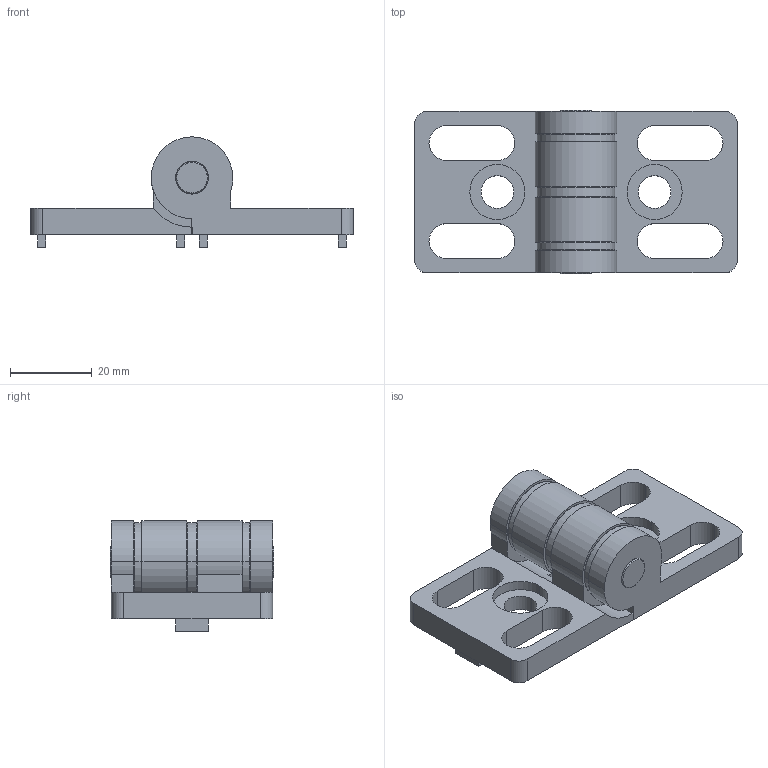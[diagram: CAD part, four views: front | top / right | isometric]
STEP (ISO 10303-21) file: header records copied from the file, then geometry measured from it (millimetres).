
FILE_DESCRIPTION (( 'STEP AP214' ), '1' );
FILE_NAME ('SNSD.30.52.85. Ïåòëÿ äâåðíàÿ ñòàëüíàÿ 4040(B40).STEP', '2015-06-30T07:53:23', ( 'user' ), ( '' ), 'SwSTEP 2.0', 'SolidWorks 2014', '' );
FILE_SCHEMA (( 'AUTOMOTIVE_DESIGN' ));
Length unit declared in the file: millimetre
Products named in the file (11): SNSD.30.50.96. ﾏ琿褻(B47)E07B48B54B40; SNSD.30.50.96. Ïåòëÿ äâåðíàÿ àëþìèíåâàÿ 3045(B47)E07B48B54B40; SNSD.30.52.85. Ïåòëÿ äâåðíàÿ ñòàëüíàÿ 4040(B40); Ðåçèíîâàÿ ïðîêëàäêà(2,5ìì); Ðåçèíîâàÿ ïðîêëàäêà; SNSD.30.50.96. ﾏ琿褻(B47)E07B48B54B40_00; SNSD.30.50.96. Ïåòëÿ äâåðíàÿ àëþìèíåâàÿ 3045(B47)E07B48B54B40_00
Assembly tree (6 placements, depth 2):
  SNSD.30.50.96. ﾏ琿褻(B47)E07B48B54B40
  SNSD.30.50.96. Ïåòëÿ äâåðíàÿ àëþìèíåâàÿ 3045(B47)E07B48B54B40
  SNSD.30.52.85. Ïåòëÿ äâåðíàÿ ñòàëüíàÿ 4040(B40)
    SNSD.30.50.96. Ïåòëÿ äâåðíàÿ àëþìèíåâàÿ 3045(B47)E07B48B54B40_00  x2
    SNSD.30.50.96. ﾏ琿褻(B47)E07B48B54B40_00
    Ðåçèíîâàÿ ïðîêëàäêà  x2
    Ðåçèíîâàÿ ïðîêëàäêà(2,5ìì)
  Ðåçèíîâàÿ ïðîêëàäêà
  Ðåçèíîâàÿ ïðîêëàäêà(2,5ìì)
Bounding box: 79 x 40 x 27 mm (x, y, z)
Volume: 25445.4 mm3; surface area: 16490.1 mm2
Topology: 6 solids, 6 shells, 160 faces, 406 edges, 262 vertices
Faces by surface type: plane 82, cylinder 62, torus 12, cone 4
Entity records: 2964 total; most frequent: DIRECTION 508, CARTESIAN_POINT 460, ORIENTED_EDGE 440, EDGE_CURVE 220, AXIS2_PLACEMENT_3D 189, VERTEX_POINT 141, LINE 130, VECTOR 130
